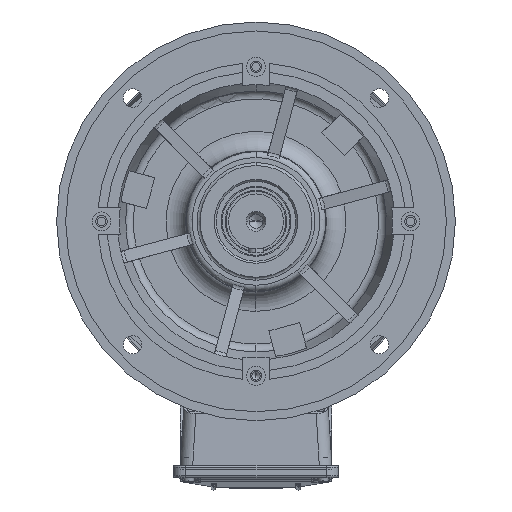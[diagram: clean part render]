
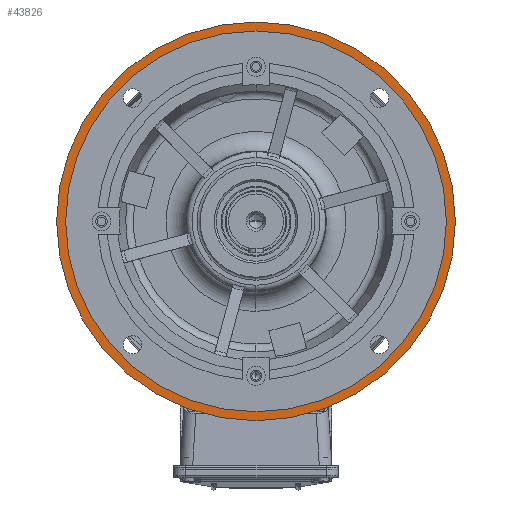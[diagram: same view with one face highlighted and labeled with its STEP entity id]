
A CAD part, left-side view. The second image highlights one B-rep face of the part: STEP entity #43826.
In plain terms, the highlighted planar face has unit normal (-1, 0, 0) as drawn and (0, -1, 0) by its records, which use the part's own axes.
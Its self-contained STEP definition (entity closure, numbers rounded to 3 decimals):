
#5974 = EDGE_LOOP ( 'NONE', ( #31097, #99388 ) ) ;
#12349 = VERTEX_POINT ( 'NONE', #71782 ) ;
#15189 = EDGE_CURVE ( 'NONE', #12349, #124186, #65537, .T. ) ;
#19177 = EDGE_CURVE ( 'NONE', #124977, #27805, #75298, .T. ) ;
#23995 = AXIS2_PLACEMENT_3D ( 'NONE', #129075, #56424, #141355 ) ;
#25936 = CARTESIAN_POINT ( 'NONE',  ( 0., 5., 200. ) ) ;
#26436 = CARTESIAN_POINT ( 'NONE',  ( 0., 5., 0. ) ) ;
#27805 = VERTEX_POINT ( 'NONE', #25936 ) ;
#28412 = AXIS2_PLACEMENT_3D ( 'NONE', #126879, #54204, #139142 ) ;
#31097 = ORIENTED_EDGE ( 'NONE', *, *, #41078, .F. ) ;
#38617 = DIRECTION ( 'NONE',  ( 0., 0., 1. ) ) ;
#40482 = EDGE_CURVE ( 'NONE', #124186, #12349, #62548, .T. ) ;
#41078 = EDGE_CURVE ( 'NONE', #27805, #124977, #81588, .T. ) ;
#43826 = ADVANCED_FACE ( 'NONE', ( #71739, #107780 ), #95201, .F. ) ;
#54010 = ORIENTED_EDGE ( 'NONE', *, *, #40482, .T. ) ;
#54204 = DIRECTION ( 'NONE',  ( 0., 1., 0. ) ) ;
#56424 = DIRECTION ( 'NONE',  ( 0., 1., 0. ) ) ;
#57830 = DIRECTION ( 'NONE',  ( 0., 1., 0. ) ) ;
#59136 = DIRECTION ( 'NONE',  ( 0., 0., 1. ) ) ;
#62548 = CIRCLE ( 'NONE', #23995, 191. ) ;
#65537 = CIRCLE ( 'NONE', #28412, 191. ) ;
#67177 = ORIENTED_EDGE ( 'NONE', *, *, #15189, .T. ) ;
#70385 = AXIS2_PLACEMENT_3D ( 'NONE', #26436, #111245, #38617 ) ;
#71739 = FACE_OUTER_BOUND ( 'NONE', #5974, .T. ) ;
#71782 = CARTESIAN_POINT ( 'NONE',  ( 0., 5., 191. ) ) ;
#75298 = CIRCLE ( 'NONE', #70385, 200. ) ;
#77317 = CARTESIAN_POINT ( 'NONE',  ( 0., 5., -191. ) ) ;
#81588 = CIRCLE ( 'NONE', #110353, 200. ) ;
#82480 = CARTESIAN_POINT ( 'NONE',  ( 191., 5., 0. ) ) ;
#88666 = EDGE_LOOP ( 'NONE', ( #67177, #54010 ) ) ;
#95201 = PLANE ( 'NONE',  #132031 ) ;
#99388 = ORIENTED_EDGE ( 'NONE', *, *, #19177, .F. ) ;
#107780 = FACE_BOUND ( 'NONE', #88666, .T. ) ;
#110353 = AXIS2_PLACEMENT_3D ( 'NONE', #130535, #57830, #142787 ) ;
#111245 = DIRECTION ( 'NONE',  ( 0., 1., 0. ) ) ;
#124186 = VERTEX_POINT ( 'NONE', #77317 ) ;
#124977 = VERTEX_POINT ( 'NONE', #146641 ) ;
#126879 = CARTESIAN_POINT ( 'NONE',  ( 0., 5., 0. ) ) ;
#129075 = CARTESIAN_POINT ( 'NONE',  ( 0., 5., 0. ) ) ;
#130535 = CARTESIAN_POINT ( 'NONE',  ( 0., 5., 0. ) ) ;
#131839 = DIRECTION ( 'NONE',  ( 0., 1., 0. ) ) ;
#132031 = AXIS2_PLACEMENT_3D ( 'NONE', #82480, #131839, #59136 ) ;
#139142 = DIRECTION ( 'NONE',  ( 0., 0., 1. ) ) ;
#141355 = DIRECTION ( 'NONE',  ( 0., 0., 1. ) ) ;
#142787 = DIRECTION ( 'NONE',  ( 0., 0., 1. ) ) ;
#146641 = CARTESIAN_POINT ( 'NONE',  ( 0., 5., -200. ) ) ;
